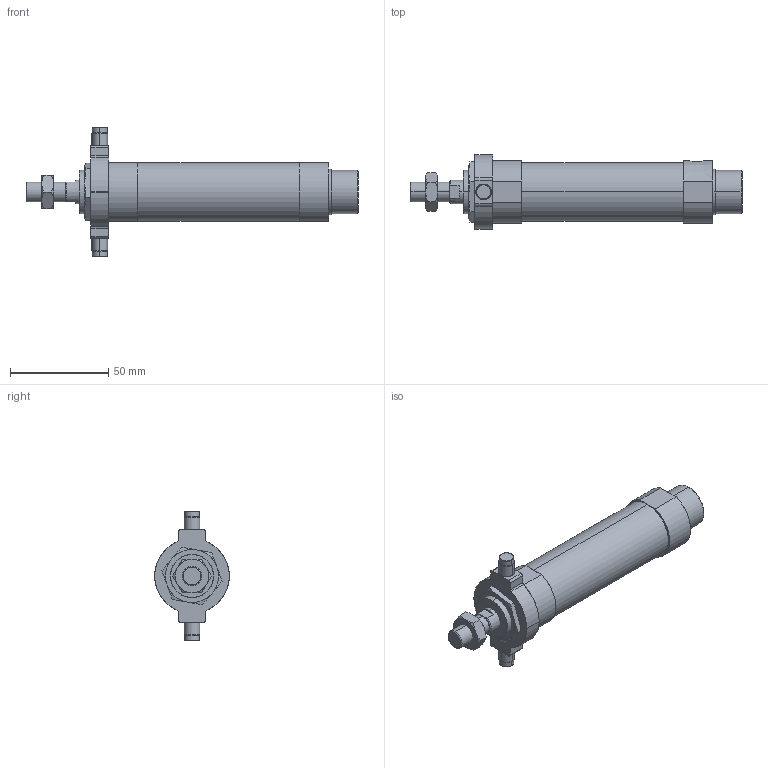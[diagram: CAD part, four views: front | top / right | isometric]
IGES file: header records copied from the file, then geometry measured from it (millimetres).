
Start section: SolidWorks IGES file using analytic representation for surfaces
Global section: file name: C:\Users\Toshiba\Desktop\J#1-25-25-T.IGS; native system: SolidWorks 2014; preprocessor: SolidWorks 2014; author: Toshiba; date: 160308.144749; units: millimetre
Bounding box: 169 x 38 x 66 mm (x, y, z)
Surface area: 22050.4 mm2 (no closed solid volume)
Topology: 0 solids, 0 shells, 132 faces, 2166 edges, 2164 vertices
Faces by surface type: bspline 71, revolution 61
